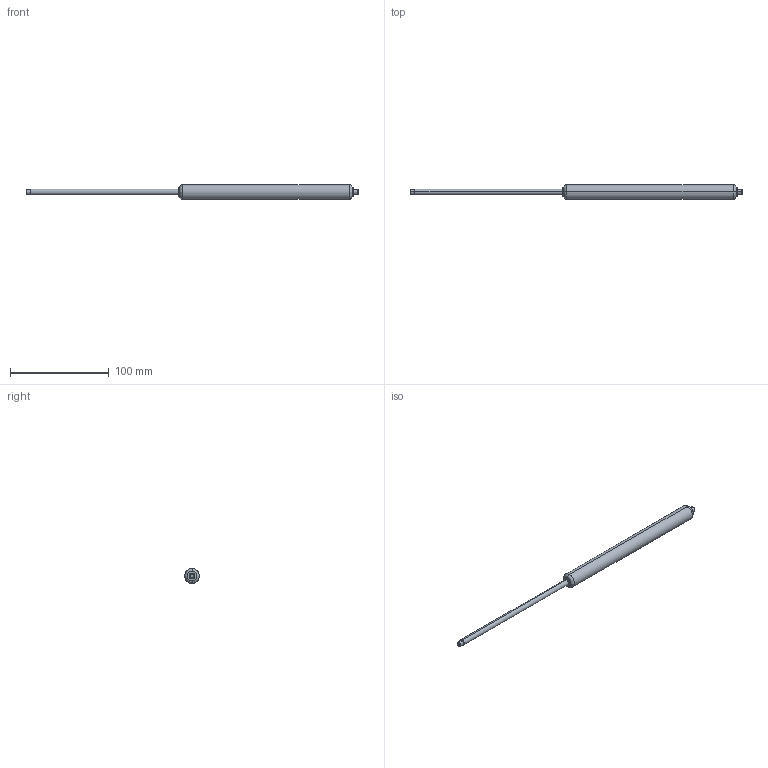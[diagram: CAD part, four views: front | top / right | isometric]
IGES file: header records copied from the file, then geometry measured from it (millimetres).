
Start section: SolidWorks IGES file using analytic representation for surfaces
Bounding box: 337 x 15 x 15 mm (x, y, z)
Surface area: 11514.1 mm2 (no closed solid volume)
Topology: 0 solids, 0 shells, 25 faces, 336 edges, 336 vertices
Faces by surface type: revolution 16, bspline 9
